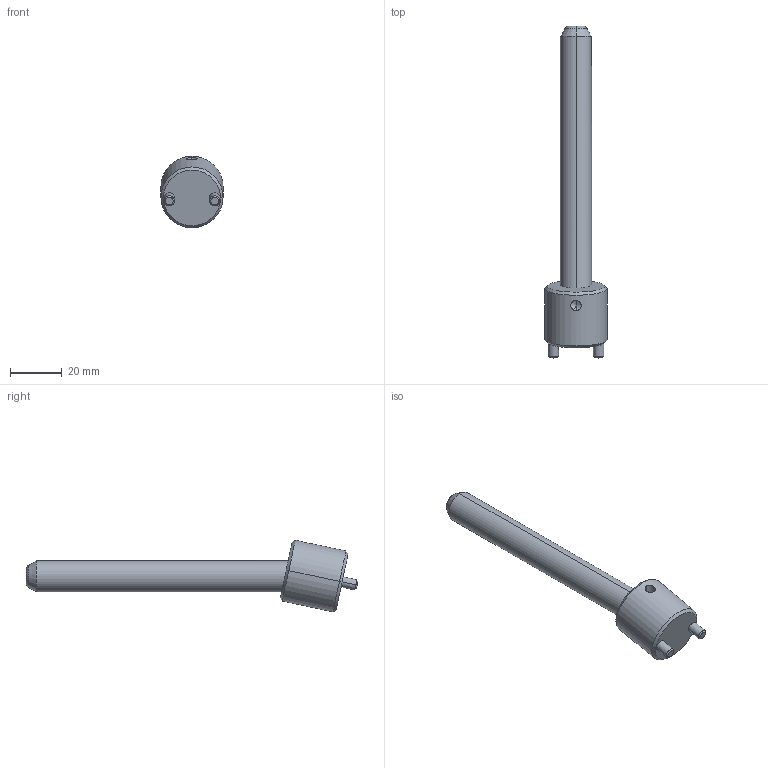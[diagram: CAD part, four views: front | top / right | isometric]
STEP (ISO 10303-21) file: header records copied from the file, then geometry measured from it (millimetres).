
FILE_DESCRIPTION(('CATIA V5 STEP Exchange'),'2;1');
FILE_NAME('C:\Users\Raffaele\Desktop\3D BOLEX\3D FILES CF BOLEX\19-INCLINED ASSEMBLY REF_CI\CI1212100.stp','2019-06-21T14:01:50+00:00',('none'),('none'),'CATIA Version 5 Release 20 GA (IN-10)','CATIA V5 STEP AP203','none');
FILE_SCHEMA(('CONFIG_CONTROL_DESIGN'));
Length unit declared in the file: millimetre
Products named in the file (1): CI1212100
Assembly tree (2 placements, depth 2):
  CI1212100
    #58
    #578
Bounding box: 24 x 128.22 x 27.63 mm (x, y, z)
Volume: 21020.5 mm3; surface area: 7969.6 mm2
Topology: 2 solids, 2 shells, 39 faces, 82 edges, 47 vertices
Faces by surface type: cone 14, cylinder 14, plane 7, torus 4
Entity records: 1467 total; most frequent: CARTESIAN_POINT 608, ORIENTED_EDGE 160, DIRECTION 145, EDGE_CURVE 80, AXIS2_PLACEMENT_3D 72, VERTEX_POINT 47, EDGE_LOOP 43, ADVANCED_FACE 39
